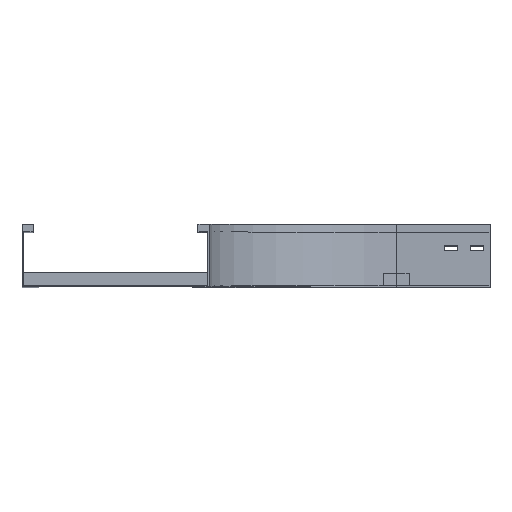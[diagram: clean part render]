
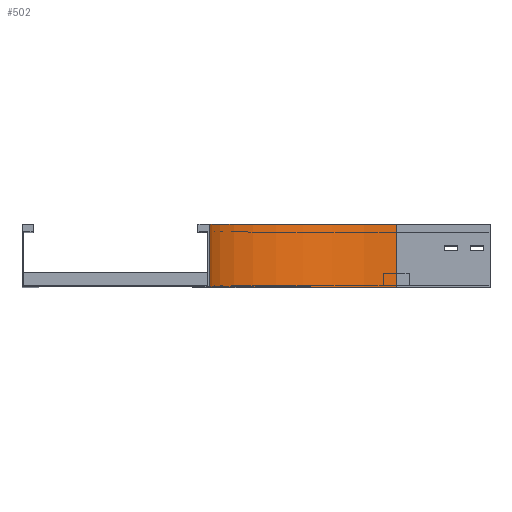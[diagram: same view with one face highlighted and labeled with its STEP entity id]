
A CAD part, top view. The second image highlights one B-rep face of the part: STEP entity #502.
In plain terms, the highlighted cylindrical face has radius 300 mm (diameter 600 mm), a partial arc.
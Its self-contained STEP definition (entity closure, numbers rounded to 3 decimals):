
#70 = AXIS2_PLACEMENT_3D ( 'NONE', #1289, #409, #2728 ) ;
#221 = VERTEX_POINT ( 'NONE', #2118 ) ;
#260 = EDGE_CURVE ( 'NONE', #221, #2628, #3428, .T. ) ;
#341 = ORIENTED_EDGE ( 'NONE', *, *, #984, .F. ) ;
#360 = CARTESIAN_POINT ( 'NONE',  ( 300., 100., -450. ) ) ;
#409 = DIRECTION ( 'NONE',  ( 0., -1., 0. ) ) ;
#458 = EDGE_CURVE ( 'NONE', #2143, #2273, #3438, .T. ) ;
#502 = ADVANCED_FACE ( 'NONE', ( #761 ), #2287, .F. ) ;
#543 = DIRECTION ( 'NONE',  ( 0., -1., 0. ) ) ;
#576 = CARTESIAN_POINT ( 'NONE',  ( 0., 0., -150. ) ) ;
#719 = VECTOR ( 'NONE', #3059, 1000. ) ;
#761 = FACE_OUTER_BOUND ( 'NONE', #858, .T. ) ;
#812 = CARTESIAN_POINT ( 'NONE',  ( 300., 0., -450. ) ) ;
#858 = EDGE_LOOP ( 'NONE', ( #2368, #341, #3149, #1503 ) ) ;
#901 = VECTOR ( 'NONE', #1767, 1000. ) ;
#984 = EDGE_CURVE ( 'NONE', #221, #2143, #1157, .T. ) ;
#1037 = LINE ( 'NONE', #2215, #719 ) ;
#1110 = CARTESIAN_POINT ( 'NONE',  ( 300., 100., -150. ) ) ;
#1127 = DIRECTION ( 'NONE',  ( 0., -1., 0. ) ) ;
#1157 = LINE ( 'NONE', #576, #901 ) ;
#1282 = CARTESIAN_POINT ( 'NONE',  ( 0., 100., -150. ) ) ;
#1289 = CARTESIAN_POINT ( 'NONE',  ( 300., 0., -150. ) ) ;
#1442 = CARTESIAN_POINT ( 'NONE',  ( 300., 0., -150. ) ) ;
#1503 = ORIENTED_EDGE ( 'NONE', *, *, #1572, .T. ) ;
#1572 = EDGE_CURVE ( 'NONE', #2628, #2273, #1037, .T. ) ;
#1737 = DIRECTION ( 'NONE',  ( 0., 0., -1. ) ) ;
#1767 = DIRECTION ( 'NONE',  ( 0., 1., 0. ) ) ;
#2118 = CARTESIAN_POINT ( 'NONE',  ( 0., 0., -150. ) ) ;
#2143 = VERTEX_POINT ( 'NONE', #1282 ) ;
#2215 = CARTESIAN_POINT ( 'NONE',  ( 300., 0., -450. ) ) ;
#2273 = VERTEX_POINT ( 'NONE', #360 ) ;
#2287 = CYLINDRICAL_SURFACE ( 'NONE', #3309, 300. ) ;
#2368 = ORIENTED_EDGE ( 'NONE', *, *, #458, .F. ) ;
#2628 = VERTEX_POINT ( 'NONE', #812 ) ;
#2728 = DIRECTION ( 'NONE',  ( -1., 0., 0. ) ) ;
#3059 = DIRECTION ( 'NONE',  ( 0., 1., 0. ) ) ;
#3149 = ORIENTED_EDGE ( 'NONE', *, *, #260, .T. ) ;
#3189 = AXIS2_PLACEMENT_3D ( 'NONE', #1110, #1127, #3801 ) ;
#3309 = AXIS2_PLACEMENT_3D ( 'NONE', #1442, #543, #1737 ) ;
#3428 = CIRCLE ( 'NONE', #70, 300. ) ;
#3438 = CIRCLE ( 'NONE', #3189, 300. ) ;
#3801 = DIRECTION ( 'NONE',  ( -1., 0., 0. ) ) ;
